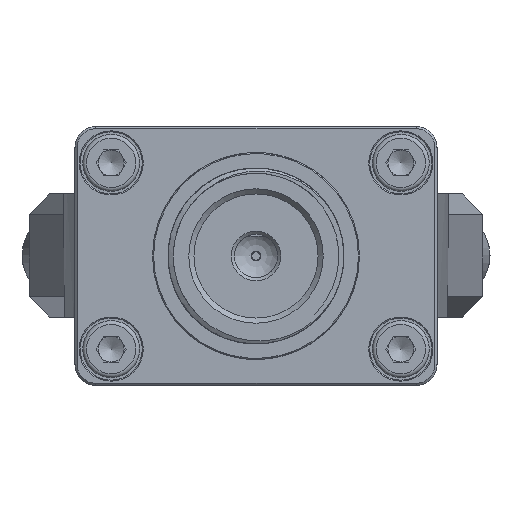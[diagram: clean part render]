
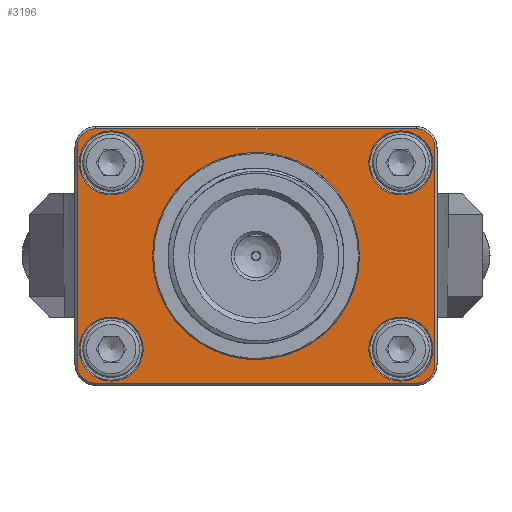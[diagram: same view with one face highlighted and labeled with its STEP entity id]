
A CAD part, front view. The second image highlights one B-rep face of the part: STEP entity #3196.
In plain terms, the highlighted planar face has unit normal (0, -1, 0).
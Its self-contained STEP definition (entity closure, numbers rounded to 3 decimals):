
#720=FACE_BOUND('',#8472,.T.);
#721=FACE_BOUND('',#8473,.T.);
#722=FACE_BOUND('',#8474,.T.);
#723=FACE_BOUND('',#8475,.T.);
#724=FACE_BOUND('',#8476,.T.);
#725=FACE_BOUND('',#8477,.T.);
#1319=CIRCLE('',#27919,10.);
#1320=CIRCLE('',#27921,3.1);
#1321=CIRCLE('',#27923,3.1);
#1322=CIRCLE('',#27925,3.1);
#1323=CIRCLE('',#27927,3.1);
#1324=CIRCLE('',#27929,1.8);
#1325=CIRCLE('',#27930,1.8);
#1326=CIRCLE('',#27931,1.8);
#1327=CIRCLE('',#27932,1.8);
#3196=ADVANCED_FACE('',(#720,#721,#722,#723,#724,#725),#4967,.T.);
#4967=PLANE('',#27933);
#8472=EDGE_LOOP('',(#14852,#14853,#14854,#14855,#14856,#14857,#14858,#14859));
#8473=EDGE_LOOP('',(#14860));
#8474=EDGE_LOOP('',(#14861));
#8475=EDGE_LOOP('',(#14862));
#8476=EDGE_LOOP('',(#14863));
#8477=EDGE_LOOP('',(#14864));
#14852=ORIENTED_EDGE('',*,*,#20180,.T.);
#14853=ORIENTED_EDGE('',*,*,#20181,.T.);
#14854=ORIENTED_EDGE('',*,*,#20182,.T.);
#14855=ORIENTED_EDGE('',*,*,#20183,.T.);
#14856=ORIENTED_EDGE('',*,*,#20184,.T.);
#14857=ORIENTED_EDGE('',*,*,#20185,.T.);
#14858=ORIENTED_EDGE('',*,*,#20186,.T.);
#14859=ORIENTED_EDGE('',*,*,#20187,.T.);
#14860=ORIENTED_EDGE('',*,*,#20179,.T.);
#14861=ORIENTED_EDGE('',*,*,#20178,.T.);
#14862=ORIENTED_EDGE('',*,*,#20177,.T.);
#14863=ORIENTED_EDGE('',*,*,#20176,.T.);
#14864=ORIENTED_EDGE('',*,*,#20175,.T.);
#16922=VERTEX_POINT('',#43776);
#16923=VERTEX_POINT('',#43779);
#16924=VERTEX_POINT('',#43782);
#16925=VERTEX_POINT('',#43785);
#16926=VERTEX_POINT('',#43788);
#16927=VERTEX_POINT('',#43791);
#16928=VERTEX_POINT('',#43792);
#16929=VERTEX_POINT('',#43794);
#16930=VERTEX_POINT('',#43796);
#16931=VERTEX_POINT('',#43798);
#16932=VERTEX_POINT('',#43800);
#16933=VERTEX_POINT('',#43802);
#16934=VERTEX_POINT('',#43804);
#20175=EDGE_CURVE('',#16922,#16922,#1319,.T.);
#20176=EDGE_CURVE('',#16923,#16923,#1320,.T.);
#20177=EDGE_CURVE('',#16924,#16924,#1321,.T.);
#20178=EDGE_CURVE('',#16925,#16925,#1322,.T.);
#20179=EDGE_CURVE('',#16926,#16926,#1323,.T.);
#20180=EDGE_CURVE('',#16927,#16928,#23157,.T.);
#20181=EDGE_CURVE('',#16928,#16929,#1324,.T.);
#20182=EDGE_CURVE('',#16929,#16930,#23158,.T.);
#20183=EDGE_CURVE('',#16930,#16931,#1325,.T.);
#20184=EDGE_CURVE('',#16931,#16932,#23159,.T.);
#20185=EDGE_CURVE('',#16932,#16933,#1326,.T.);
#20186=EDGE_CURVE('',#16933,#16934,#23160,.T.);
#20187=EDGE_CURVE('',#16934,#16927,#1327,.T.);
#23157=LINE('',#43790,#25911);
#23158=LINE('',#43795,#25912);
#23159=LINE('',#43799,#25913);
#23160=LINE('',#43803,#25914);
#25911=VECTOR('',#34869,1.);
#25912=VECTOR('',#34872,1.);
#25913=VECTOR('',#34875,1.);
#25914=VECTOR('',#34878,1.);
#27919=AXIS2_PLACEMENT_3D('',#43775,#34849,#34850);
#27921=AXIS2_PLACEMENT_3D('',#43778,#34853,#34854);
#27923=AXIS2_PLACEMENT_3D('',#43781,#34857,#34858);
#27925=AXIS2_PLACEMENT_3D('',#43784,#34861,#34862);
#27927=AXIS2_PLACEMENT_3D('',#43787,#34865,#34866);
#27929=AXIS2_PLACEMENT_3D('',#43793,#34870,#34871);
#27930=AXIS2_PLACEMENT_3D('',#43797,#34873,#34874);
#27931=AXIS2_PLACEMENT_3D('',#43801,#34876,#34877);
#27932=AXIS2_PLACEMENT_3D('',#43805,#34879,#34880);
#27933=AXIS2_PLACEMENT_3D('',#43806,#34881,#34882);
#34849=DIRECTION('',(0.,1.,0.));
#34850=DIRECTION('',(1.,0.,0.));
#34853=DIRECTION('',(0.,1.,0.));
#34854=DIRECTION('',(0.,0.,-1.));
#34857=DIRECTION('',(0.,1.,0.));
#34858=DIRECTION('',(0.,0.,-1.));
#34861=DIRECTION('',(0.,1.,0.));
#34862=DIRECTION('',(0.,0.,-1.));
#34865=DIRECTION('',(0.,1.,0.));
#34866=DIRECTION('',(0.,0.,-1.));
#34869=DIRECTION('',(-1.,0.,0.));
#34870=DIRECTION('',(0.,-1.,0.));
#34871=DIRECTION('',(0.,0.,-1.));
#34872=DIRECTION('',(0.,0.,-1.));
#34873=DIRECTION('',(0.,-1.,0.));
#34874=DIRECTION('',(0.,0.,-1.));
#34875=DIRECTION('',(1.,0.,0.));
#34876=DIRECTION('',(0.,-1.,0.));
#34877=DIRECTION('',(0.,0.,-1.));
#34878=DIRECTION('',(0.,0.,1.));
#34879=DIRECTION('',(0.,-1.,0.));
#34880=DIRECTION('',(0.,0.,-1.));
#34881=DIRECTION('',(0.,-1.,0.));
#34882=DIRECTION('',(-1.,0.,0.));
#43775=CARTESIAN_POINT('',(0.,-29.5,-12.5));
#43776=CARTESIAN_POINT('',(10.,-29.5,-12.5));
#43778=CARTESIAN_POINT('',(14.,-29.5,-21.5));
#43779=CARTESIAN_POINT('',(14.,-29.5,-24.6));
#43781=CARTESIAN_POINT('',(14.,-29.5,-3.5));
#43782=CARTESIAN_POINT('',(14.,-29.5,-6.6));
#43784=CARTESIAN_POINT('',(-14.,-29.5,-3.5));
#43785=CARTESIAN_POINT('',(-14.,-29.5,-6.6));
#43787=CARTESIAN_POINT('',(-14.,-29.5,-21.5));
#43788=CARTESIAN_POINT('',(-14.,-29.5,-24.6));
#43790=CARTESIAN_POINT('',(-14.,-29.5,-0.2));
#43791=CARTESIAN_POINT('',(15.5,-29.5,-0.2));
#43792=CARTESIAN_POINT('',(-15.5,-29.5,-0.2));
#43793=CARTESIAN_POINT('',(-15.5,-29.5,-2.));
#43794=CARTESIAN_POINT('',(-17.3,-29.5,-2.));
#43795=CARTESIAN_POINT('',(-17.3,-29.5,-21.5));
#43796=CARTESIAN_POINT('',(-17.3,-29.5,-23.));
#43797=CARTESIAN_POINT('',(-15.5,-29.5,-23.));
#43798=CARTESIAN_POINT('',(-15.5,-29.5,-24.8));
#43799=CARTESIAN_POINT('',(-14.,-29.5,-24.8));
#43800=CARTESIAN_POINT('',(15.5,-29.5,-24.8));
#43801=CARTESIAN_POINT('',(15.5,-29.5,-23.));
#43802=CARTESIAN_POINT('',(17.3,-29.5,-23.));
#43803=CARTESIAN_POINT('',(17.3,-29.5,-21.5));
#43804=CARTESIAN_POINT('',(17.3,-29.5,-2.));
#43805=CARTESIAN_POINT('',(15.5,-29.5,-2.));
#43806=CARTESIAN_POINT('',(-14.,-29.5,-21.5));
